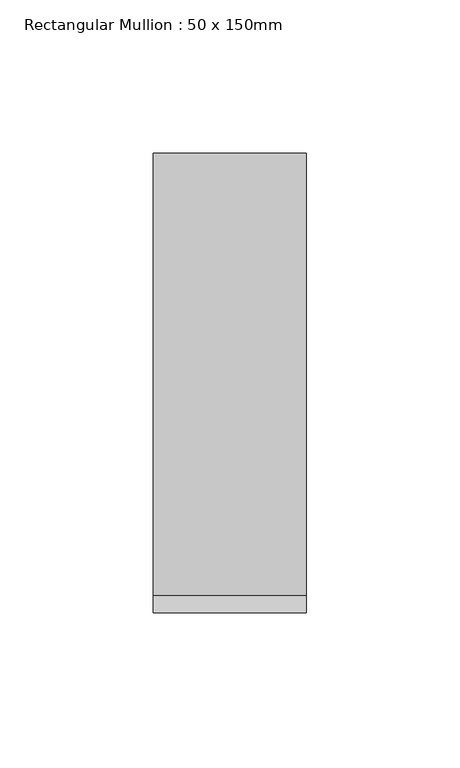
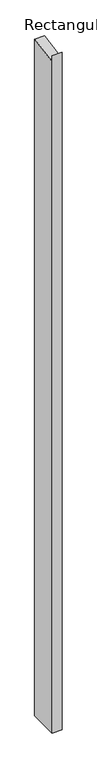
"""IFC4 building model written with IfcOpenShell, lengths in millimetres: member geometry, Rectangular Mullion : 50 x 150mm."""

import ifcopenshell
import ifcopenshell.guid

model = None  # the IFC model being written
_history = None  # IfcOwnerHistory: only IFC2X3 demands one
_inside = {}  # id of a spatial element -> (the spatial element, [elements in it])
_under = {}  # id of a project, library or spatial element -> (it, [spatial elements below it])
_declared = {}  # id of a project -> (the project, [libraries it declares])
_typed = {}  # id of a type object -> (the type object, [elements of that type])
_made_of = {}  # id of a material, layer set ... -> (it, [elements and type objects made of it])


def new_model(schema):
    """Start an empty IFC model of exactly this schema.

    Asked for "IFC4X3", IfcOpenShell would pick the latest addendum, in which some entities
    have other attributes; the version numbers below select the first issue.
    IFC2X3 requires an IfcOwnerHistory on every rooted entity: one is made here for all.
    """
    global model, _history
    if schema == "IFC4X3":
        model = ifcopenshell.file(schema_version=(4, 3, 0, 0))
    else:
        model = ifcopenshell.file(schema=schema)
    _inside.clear()
    _under.clear()
    _declared.clear()
    _typed.clear()
    _made_of.clear()
    _history = None
    if model.schema == "IFC2X3":
        org = make("IfcOrganization", Name="unknown")
        user = make(
            "IfcPersonAndOrganization",
            ThePerson=make("IfcPerson", FamilyName="unknown"),
            TheOrganization=org,
        )
        app = make(
            "IfcApplication",
            ApplicationDeveloper=org,
            Version="unknown",
            ApplicationFullName="unknown",
            ApplicationIdentifier="unknown",
        )
        _history = make(
            "IfcOwnerHistory",
            OwningUser=user,
            OwningApplication=app,
            ChangeAction="ADDED",
            CreationDate=0,
        )
    return model


def make(cls, **values):
    """One entity of the class cls with the attributes given. An attribute that is None is left unset."""
    return model.create_entity(
        cls, **{name: value for name, value in values.items() if value is not None}
    )


def rooted(cls, **values):
    """An entity with a GlobalId (a new one), such as an element, a storey or a relation."""
    return make(cls, GlobalId=ifcopenshell.guid.new(), OwnerHistory=_history, **values)


def si_unit(unit_type, name, prefix=None):
    """IfcSIUnit, for example si_unit("LENGTHUNIT", "METRE", prefix="MILLI")."""
    return make("IfcSIUnit", UnitType=unit_type, Prefix=prefix, Name=name)


def assignment(units):
    """IfcUnitAssignment: the units of a project."""
    return None if units is None else make("IfcUnitAssignment", Units=units)


def point(xyz):
    """IfcCartesianPoint."""
    return None if xyz is None else make("IfcCartesianPoint", Coordinates=xyz)


def direction(xyz):
    """IfcDirection."""
    return None if xyz is None else make("IfcDirection", DirectionRatios=xyz)


def frame(location, z_axis=None, x_axis=None):
    """IfcAxis2Placement3D, a coordinate frame: its origin and axes. An axis left out is left unset."""
    return make(
        "IfcAxis2Placement3D",
        Location=point(location),
        Axis=direction(z_axis),
        RefDirection=direction(x_axis),
    )


def origin():
    """The frame at (0, 0, 0) with its axes left unset."""
    return frame((0.0, 0.0, 0.0))


def place(relative_to, where):
    """IfcLocalPlacement: puts the frame where relative to a parent placement (None: the world)."""
    return make(
        "IfcLocalPlacement", PlacementRelTo=relative_to, RelativePlacement=where
    )


def context(
    kind, dimensions, precision=None, world=None, true_north=None, identifier=None
):
    """IfcGeometricRepresentationContext, for example the 3D "Model" context."""
    return make(
        "IfcGeometricRepresentationContext",
        ContextIdentifier=identifier,
        ContextType=kind,
        CoordinateSpaceDimension=dimensions,
        Precision=precision,
        WorldCoordinateSystem=world,
        TrueNorth=true_north,
    )


def project(units=None, contexts=None):
    """IfcProject with its units and contexts."""
    return rooted(
        "IfcProject",
        Name="project",
        RepresentationContexts=contexts,
        UnitsInContext=assignment(units),
    )


def spatial(cls, under=None, at=None, **own):
    """A site, building, storey or space (cls), placed at a placement, below another one or the project."""
    s = rooted(cls, ObjectPlacement=at, **own)
    if under is not None:
        _under.setdefault(under.id(), (under, []))[1].append(s)
    return s


def polyline(points):
    """IfcPolyline through the points."""
    return make("IfcPolyline", Points=[point(p) for p in points])


def outline(outer, holes=None, kind="AREA"):
    """IfcArbitraryClosedProfileDef: a profile drawn as a closed curve; with holes, ...WithVoids."""
    if holes is None:
        return make("IfcArbitraryClosedProfileDef", ProfileType=kind, OuterCurve=outer)
    return make(
        "IfcArbitraryProfileDefWithVoids",
        ProfileType=kind,
        OuterCurve=outer,
        InnerCurves=holes,
    )


def extrude(swept, where, along, depth):
    """IfcExtrudedAreaSolid: the profile swept, set in the frame where, extruded along a direction by depth."""
    return make(
        "IfcExtrudedAreaSolid",
        SweptArea=swept,
        Position=where,
        ExtrudedDirection=direction(along),
        Depth=depth,
    )


def shape(context_of_items, identifier, shape_type, items):
    """IfcShapeRepresentation: the items that make up one representation, for example the "Body"."""
    return make(
        "IfcShapeRepresentation",
        ContextOfItems=context_of_items,
        RepresentationIdentifier=identifier,
        RepresentationType=shape_type,
        Items=items,
    )


def source(mapping_origin, context_of_items, identifier, shape_type, items):
    """IfcRepresentationMap: a shape defined once, which mapped items show again and again."""
    return make(
        "IfcRepresentationMap",
        MappingOrigin=mapping_origin,
        MappedRepresentation=shape(context_of_items, identifier, shape_type, items),
    )


def transform(
    local_origin,
    x_axis=None,
    y_axis=None,
    z_axis=None,
    scale=None,
    scale2=None,
    scale3=None,
    uniform=True,
):
    """IfcCartesianTransformationOperator3D, or its non-uniform kind. x_axis, y_axis, z_axis: its Axis1, 2, 3."""
    if uniform:
        return make(
            "IfcCartesianTransformationOperator3D",
            Axis1=direction(x_axis),
            Axis2=direction(y_axis),
            LocalOrigin=point(local_origin),
            Scale=scale,
            Axis3=direction(z_axis),
        )
    return make(
        "IfcCartesianTransformationOperator3DnonUniform",
        Axis1=direction(x_axis),
        Axis2=direction(y_axis),
        LocalOrigin=point(local_origin),
        Scale=scale,
        Axis3=direction(z_axis),
        Scale2=scale2,
        Scale3=scale3,
    )


def mapped(mapping_source, mapping_target):
    """IfcMappedItem: shows the shape of a source again, moved by a transform."""
    return make(
        "IfcMappedItem", MappingSource=mapping_source, MappingTarget=mapping_target
    )


def made_of(thing, what):
    """Note that an element or type object is made of a material, layer set ...; save() writes the relation."""
    if what is not None:
        _made_of.setdefault(what.id(), (what, []))[1].append(thing)
    return thing


def element(
    cls,
    number,
    at=None,
    inside=None,
    cuts=None,
    type_object=None,
    material=None,
    context=None,
    identifier="Body",
    shape_type=None,
    held_by="IfcProductDefinitionShape",
    body=None,
    shapes=None,
    **own,
):
    """One element of the class cls, such as IfcWall. Its Tag is "e" and its number.

    at: its placement. inside: the storey or other place that contains it. cuts: it is an
    opening in that element (IfcRelVoidsElement). A single representation is given by context,
    identifier, shape_type and body (its items); several are given by shapes. held_by: the class
    of the entity that holds the representations. save() writes the other relations.
    """
    e = rooted(cls, Tag="e%d" % number, ObjectPlacement=at, **own)
    if body is not None:
        shapes = [shape(context, identifier, shape_type, body)]
    if shapes is not None:
        e.Representation = make(held_by, Representations=shapes)
    if inside is not None:
        _inside.setdefault(inside.id(), (inside, []))[1].append(e)
    if cuts is not None:
        rooted(
            "IfcRelVoidsElement", RelatingBuildingElement=cuts, RelatedOpeningElement=e
        )
    if type_object is not None:
        _typed.setdefault(type_object.id(), (type_object, []))[1].append(e)
    return made_of(e, material)


def aggregate(whole, parts):
    """IfcRelAggregates: a whole, such as a stair, and the parts it consists of."""
    return rooted("IfcRelAggregates", RelatingObject=whole, RelatedObjects=parts)


def save(model, path):
    """Write the relations noted so far, then the file.

    IfcRelAggregates (storeys below a building ...), IfcRelContainedInSpatialStructure (elements
    in a storey), IfcRelDefinesByType, IfcRelAssociatesMaterial and IfcRelDeclares: one each for
    every whole, place, type object, material and project.
    """
    for whole, parts in _under.values():
        aggregate(whole, parts)
    for where, things in _inside.values():
        rooted(
            "IfcRelContainedInSpatialStructure",
            RelatedElements=things,
            RelatingStructure=where,
        )
    for kind, things in _typed.values():
        rooted("IfcRelDefinesByType", RelatedObjects=things, RelatingType=kind)
    for what, things in _made_of.values():
        rooted("IfcRelAssociatesMaterial", RelatedObjects=things, RelatingMaterial=what)
    for by, libraries in _declared.values():
        rooted("IfcRelDeclares", RelatingContext=by, RelatedDefinitions=libraries)
    model.write(path)


def rectangular_mullion_50_x_150mm_1010543a(model_context):
    return source(origin(), model_context, "Body", "SweptSolid", [
        extrude(outline(polyline([(-75.0, 18.1816432), (-69.2621187, -13.1150745), (75.0, 13.3336704), (75.0, -3531.6483926), (-75.0, -3531.6483926), (-75.0, 18.1816432)])), frame((-50.0, 0.0, 0.0), z_axis=(1.0, 0.0, 0.0), x_axis=(0.0, 1.0, 0.0)), (0.0, 0.0, 1.0), 50.0),
    ])


if __name__ == "__main__":
    model = new_model("IFC4")
    model_context = context("Model", 3, world=origin())
    ifc_project = project(units=[si_unit("LENGTHUNIT", "METRE", prefix="MILLI")], contexts=[model_context])
    site = spatial("IfcSite", under=ifc_project)
    building = spatial("IfcBuilding", under=site)
    placement = place(None, origin())
    rectangular_mullion_50_x_150mm_shape = rectangular_mullion_50_x_150mm_1010543a(model_context)
    element("IfcMember", 1, ObjectType="Rectangular Mullion : 50 x 150mm", at=placement, inside=building, context=model_context, shape_type="MappedRepresentation", body=[
        mapped(rectangular_mullion_50_x_150mm_shape, transform((0.0, 0.0, 0.0), x_axis=(1.0, 0.0, 0.0), y_axis=(0.0, 1.0, 0.0), z_axis=(0.0, 0.0, 1.0))),
    ])
    save(model, "model.ifc")
